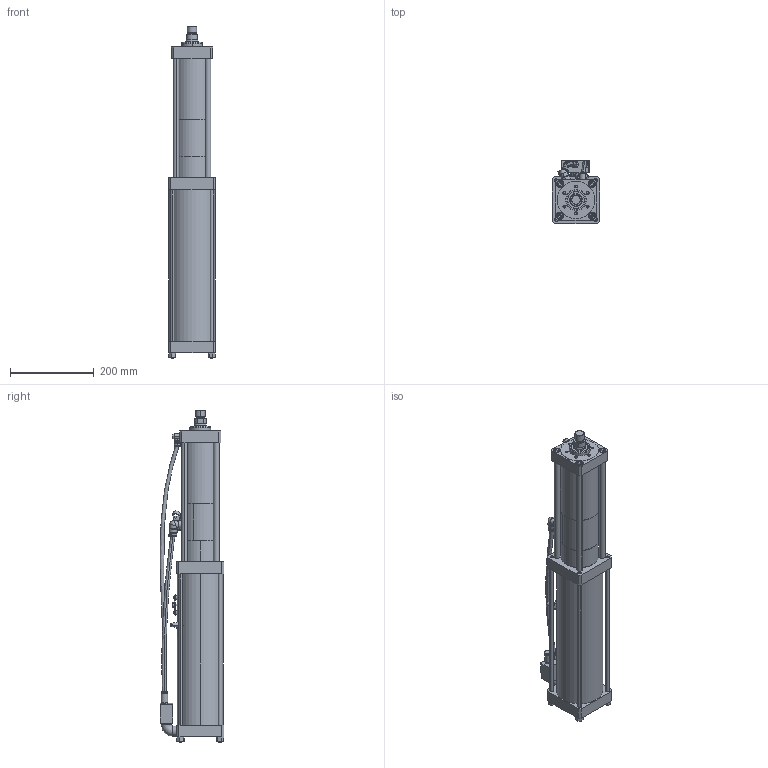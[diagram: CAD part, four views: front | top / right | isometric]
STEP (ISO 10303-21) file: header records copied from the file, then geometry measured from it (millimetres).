
FILE_DESCRIPTION (( 'STEP AP203' ), '1' );
FILE_NAME ('BS04-100-12S.step', '2025-07-31T09:39:38', ( 'Ranlm' ), ( '' ), 'SwSTEP 2.0', 'SolidWorks 2022', '' );
FILE_SCHEMA (( 'CONFIG_CONTROL_DESIGN' ));
Length unit declared in the file: millimetre
Products named in the file (1): BS04-100-12S
Bounding box: 112 x 152 x 791 mm (x, y, z)
Surface area: 483658.9 mm2 (no closed solid volume)
Topology: 0 solids, 49 shells, 544 faces, 1449 edges, 940 vertices
Faces by surface type: plane 232, cylinder 194, cone 90, torus 21, bspline 6, sphere 1
Entity records: 18362 total; most frequent: CARTESIAN_POINT 4535, DIRECTION 3094, ORIENTED_EDGE 2490, EDGE_CURVE 1435, AXIS2_PLACEMENT_3D 1181, VERTEX_POINT 939, LINE 732, VECTOR 732
